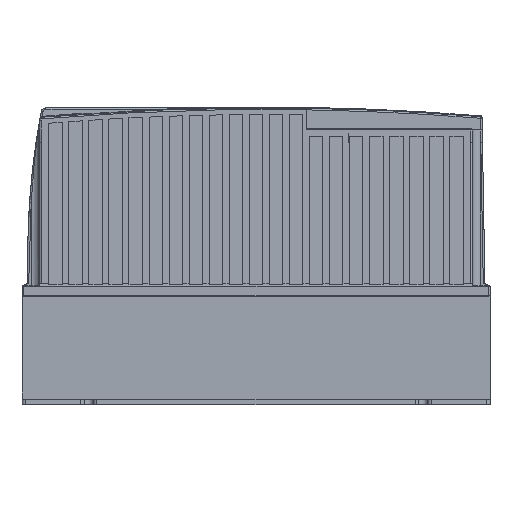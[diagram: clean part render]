
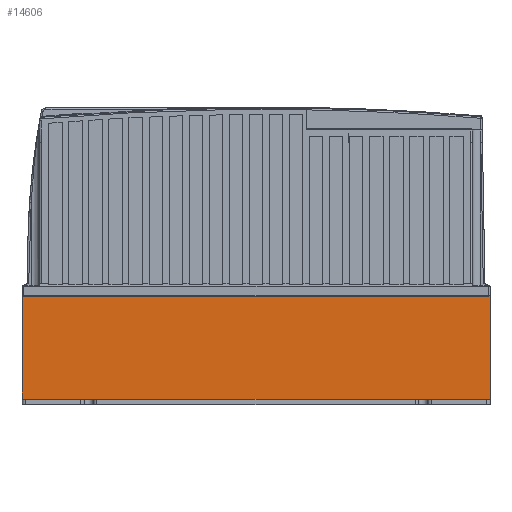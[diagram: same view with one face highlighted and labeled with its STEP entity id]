
A CAD part, front view. The second image highlights one B-rep face of the part: STEP entity #14606.
In plain terms, the highlighted planar face has unit normal (0, -1, 0).
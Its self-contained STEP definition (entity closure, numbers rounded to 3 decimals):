
#4422=DIRECTION('',(1.,0.,0.));
#4423=VECTOR('',#4422,280.);
#4424=CARTESIAN_POINT('',(0.,-167.,-55.5));
#4425=LINE('',#4424,#4423);
#4426=DIRECTION('',(0.,0.,-1.));
#4427=VECTOR('',#4426,61.5);
#4428=CARTESIAN_POINT('',(0.,-167.,6.));
#4429=LINE('',#4428,#4427);
#4430=DIRECTION('',(-1.,0.,0.));
#4431=VECTOR('',#4430,280.);
#4432=CARTESIAN_POINT('',(280.,-167.,6.));
#4433=LINE('',#4432,#4431);
#4434=DIRECTION('',(0.,0.,1.));
#4435=VECTOR('',#4434,61.5);
#4436=CARTESIAN_POINT('',(280.,-167.,-55.5));
#4437=LINE('',#4436,#4435);
#7588=CARTESIAN_POINT('',(280.,-167.,6.));
#7590=VERTEX_POINT('',#7588);
#7593=CARTESIAN_POINT('',(0.,-167.,6.));
#7594=VERTEX_POINT('',#7593);
#7607=CARTESIAN_POINT('',(280.,-167.,-55.5));
#7608=VERTEX_POINT('',#7607);
#7934=CARTESIAN_POINT('',(0.,-167.,-55.5));
#7935=VERTEX_POINT('',#7934);
#14594=CARTESIAN_POINT('',(140.,-167.,-24.75));
#14595=DIRECTION('',(0.,1.,0.));
#14596=DIRECTION('',(1.,0.,0.));
#14597=AXIS2_PLACEMENT_3D('',#14594,#14595,#14596);
#14598=PLANE('',#14597);
#14600=ORIENTED_EDGE('',*,*,#14599,.F.);
#14601=ORIENTED_EDGE('',*,*,#10907,.F.);
#14602=ORIENTED_EDGE('',*,*,#14580,.F.);
#14603=ORIENTED_EDGE('',*,*,#13536,.F.);
#14604=EDGE_LOOP('',(#14600,#14601,#14602,#14603));
#14605=FACE_OUTER_BOUND('',#14604,.F.);
#10907=EDGE_CURVE('',#7594,#7935,#4429,.T.);
#13536=EDGE_CURVE('',#7608,#7590,#4437,.T.);
#14580=EDGE_CURVE('',#7590,#7594,#4433,.T.);
#14599=EDGE_CURVE('',#7935,#7608,#4425,.T.);
#14606=ADVANCED_FACE('',(#14605),#14598,.F.);
